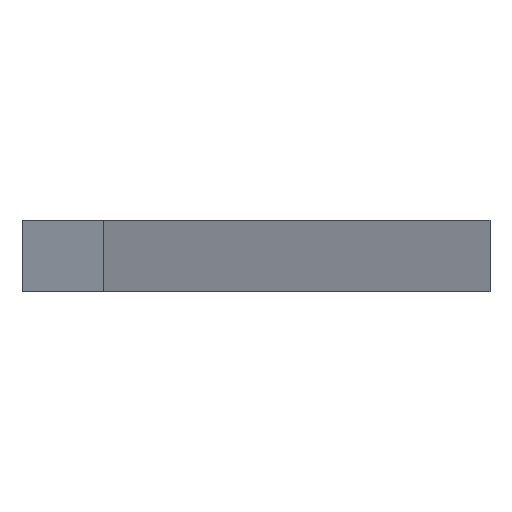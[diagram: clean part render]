
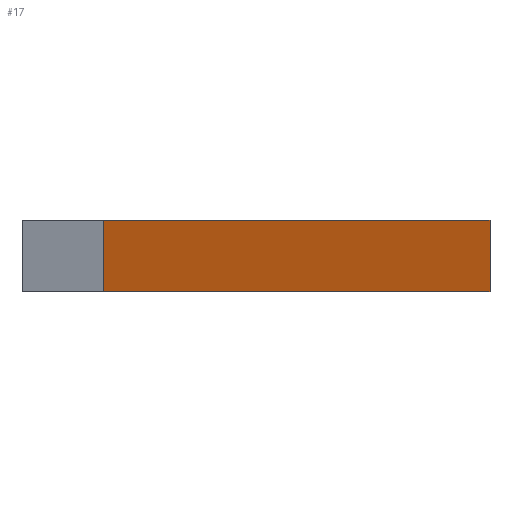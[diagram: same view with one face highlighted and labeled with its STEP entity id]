
A CAD part, left-side view. The second image highlights one B-rep face of the part: STEP entity #17.
In plain terms, the highlighted planar face has unit normal (-0.308, -0.952, 0).
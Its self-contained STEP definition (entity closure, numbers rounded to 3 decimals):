
#17 = ADVANCED_FACE('',(#18),#32,.T.);
#18 = FACE_BOUND('',#19,.T.);
#19 = EDGE_LOOP('',(#20,#55,#83,#111));
#20 = ORIENTED_EDGE('',*,*,#21,.T.);
#21 = EDGE_CURVE('',#22,#24,#26,.T.);
#22 = VERTEX_POINT('',#23);
#23 = CARTESIAN_POINT('',(-329.846,60.291,37.));
#24 = VERTEX_POINT('',#25);
#25 = CARTESIAN_POINT('',(-329.846,60.291,47.));
#26 = SURFACE_CURVE('',#27,(#31,#43),.PCURVE_S1.);
#27 = LINE('',#28,#29);
#28 = CARTESIAN_POINT('',(-329.846,60.291,37.));
#29 = VECTOR('',#30,1.);
#30 = DIRECTION('',(0.,0.,1.));
#31 = PCURVE('',#32,#37);
#32 = PLANE('',#33);
#33 = AXIS2_PLACEMENT_3D('',#34,#35,#36);
#34 = CARTESIAN_POINT('',(-329.846,60.291,37.));
#35 = DIRECTION('',(-0.308,-0.951,0.));
#36 = DIRECTION('',(-0.951,0.308,0.));
#37 = DEFINITIONAL_REPRESENTATION('',(#38),#42);
#38 = LINE('',#39,#40);
#39 = CARTESIAN_POINT('',(0.,0.));
#40 = VECTOR('',#41,1.);
#41 = DIRECTION('',(0.,-1.));
#42 = ( GEOMETRIC_REPRESENTATION_CONTEXT(2) 
PARAMETRIC_REPRESENTATION_CONTEXT() REPRESENTATION_CONTEXT('2D SPACE',''
  ) );
#43 = PCURVE('',#44,#49);
#44 = PLANE('',#45);
#45 = AXIS2_PLACEMENT_3D('',#46,#47,#48);
#46 = CARTESIAN_POINT('',(-326.154,71.709,37.));
#47 = DIRECTION('',(0.951,-0.308,0.));
#48 = DIRECTION('',(-0.308,-0.951,0.));
#49 = DEFINITIONAL_REPRESENTATION('',(#50),#54);
#50 = LINE('',#51,#52);
#51 = CARTESIAN_POINT('',(12.,0.));
#52 = VECTOR('',#53,1.);
#53 = DIRECTION('',(0.,-1.));
#54 = ( GEOMETRIC_REPRESENTATION_CONTEXT(2) 
PARAMETRIC_REPRESENTATION_CONTEXT() REPRESENTATION_CONTEXT('2D SPACE',''
  ) );
#55 = ORIENTED_EDGE('',*,*,#56,.T.);
#56 = EDGE_CURVE('',#24,#57,#59,.T.);
#57 = VERTEX_POINT('',#58);
#58 = CARTESIAN_POINT('',(-496.846,114.291,47.));
#59 = SURFACE_CURVE('',#60,(#64,#71),.PCURVE_S1.);
#60 = LINE('',#61,#62);
#61 = CARTESIAN_POINT('',(-329.846,60.291,47.));
#62 = VECTOR('',#63,1.);
#63 = DIRECTION('',(-0.951,0.308,0.));
#64 = PCURVE('',#32,#65);
#65 = DEFINITIONAL_REPRESENTATION('',(#66),#70);
#66 = LINE('',#67,#68);
#67 = CARTESIAN_POINT('',(0.,-10.));
#68 = VECTOR('',#69,1.);
#69 = DIRECTION('',(1.,0.));
#70 = ( GEOMETRIC_REPRESENTATION_CONTEXT(2) 
PARAMETRIC_REPRESENTATION_CONTEXT() REPRESENTATION_CONTEXT('2D SPACE',''
  ) );
#71 = PCURVE('',#72,#77);
#72 = PLANE('',#73);
#73 = AXIS2_PLACEMENT_3D('',#74,#75,#76);
#74 = CARTESIAN_POINT('',(-411.5,93.,47.));
#75 = DIRECTION('',(-0.,-0.,-1.));
#76 = DIRECTION('',(-1.,0.,0.));
#77 = DEFINITIONAL_REPRESENTATION('',(#78),#82);
#78 = LINE('',#79,#80);
#79 = CARTESIAN_POINT('',(-81.654,-32.709));
#80 = VECTOR('',#81,1.);
#81 = DIRECTION('',(0.951,0.308));
#82 = ( GEOMETRIC_REPRESENTATION_CONTEXT(2) 
PARAMETRIC_REPRESENTATION_CONTEXT() REPRESENTATION_CONTEXT('2D SPACE',''
  ) );
#83 = ORIENTED_EDGE('',*,*,#84,.F.);
#84 = EDGE_CURVE('',#85,#57,#87,.T.);
#85 = VERTEX_POINT('',#86);
#86 = CARTESIAN_POINT('',(-496.846,114.291,37.));
#87 = SURFACE_CURVE('',#88,(#92,#99),.PCURVE_S1.);
#88 = LINE('',#89,#90);
#89 = CARTESIAN_POINT('',(-496.846,114.291,37.));
#90 = VECTOR('',#91,1.);
#91 = DIRECTION('',(0.,0.,1.));
#92 = PCURVE('',#32,#93);
#93 = DEFINITIONAL_REPRESENTATION('',(#94),#98);
#94 = LINE('',#95,#96);
#95 = CARTESIAN_POINT('',(175.514,0.));
#96 = VECTOR('',#97,1.);
#97 = DIRECTION('',(0.,-1.));
#98 = ( GEOMETRIC_REPRESENTATION_CONTEXT(2) 
PARAMETRIC_REPRESENTATION_CONTEXT() REPRESENTATION_CONTEXT('2D SPACE',''
  ) );
#99 = PCURVE('',#100,#105);
#100 = PLANE('',#101);
#101 = AXIS2_PLACEMENT_3D('',#102,#103,#104);
#102 = CARTESIAN_POINT('',(-496.846,114.291,37.));
#103 = DIRECTION('',(-0.951,0.308,0.));
#104 = DIRECTION('',(0.308,0.951,0.));
#105 = DEFINITIONAL_REPRESENTATION('',(#106),#110);
#106 = LINE('',#107,#108);
#107 = CARTESIAN_POINT('',(0.,0.));
#108 = VECTOR('',#109,1.);
#109 = DIRECTION('',(0.,-1.));
#110 = ( GEOMETRIC_REPRESENTATION_CONTEXT(2) 
PARAMETRIC_REPRESENTATION_CONTEXT() REPRESENTATION_CONTEXT('2D SPACE',''
  ) );
#111 = ORIENTED_EDGE('',*,*,#112,.F.);
#112 = EDGE_CURVE('',#22,#85,#113,.T.);
#113 = SURFACE_CURVE('',#114,(#118,#125),.PCURVE_S1.);
#114 = LINE('',#115,#116);
#115 = CARTESIAN_POINT('',(-329.846,60.291,37.));
#116 = VECTOR('',#117,1.);
#117 = DIRECTION('',(-0.951,0.308,0.));
#118 = PCURVE('',#32,#119);
#119 = DEFINITIONAL_REPRESENTATION('',(#120),#124);
#120 = LINE('',#121,#122);
#121 = CARTESIAN_POINT('',(0.,0.));
#122 = VECTOR('',#123,1.);
#123 = DIRECTION('',(1.,0.));
#124 = ( GEOMETRIC_REPRESENTATION_CONTEXT(2) 
PARAMETRIC_REPRESENTATION_CONTEXT() REPRESENTATION_CONTEXT('2D SPACE',''
  ) );
#125 = PCURVE('',#126,#131);
#126 = PLANE('',#127);
#127 = AXIS2_PLACEMENT_3D('',#128,#129,#130);
#128 = CARTESIAN_POINT('',(-411.5,93.,37.));
#129 = DIRECTION('',(-0.,-0.,-1.));
#130 = DIRECTION('',(-1.,0.,0.));
#131 = DEFINITIONAL_REPRESENTATION('',(#132),#136);
#132 = LINE('',#133,#134);
#133 = CARTESIAN_POINT('',(-81.654,-32.709));
#134 = VECTOR('',#135,1.);
#135 = DIRECTION('',(0.951,0.308));
#136 = ( GEOMETRIC_REPRESENTATION_CONTEXT(2) 
PARAMETRIC_REPRESENTATION_CONTEXT() REPRESENTATION_CONTEXT('2D SPACE',''
  ) );
